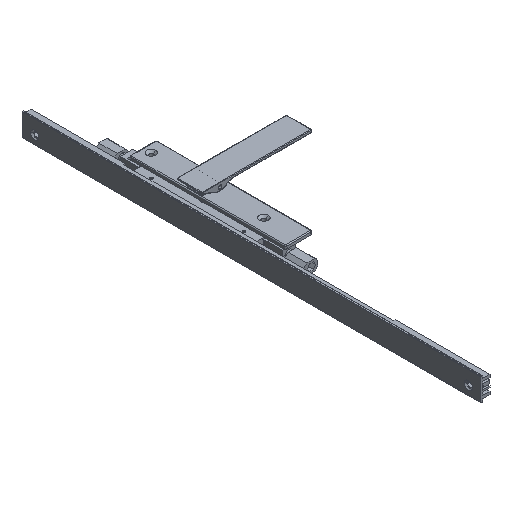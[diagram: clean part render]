
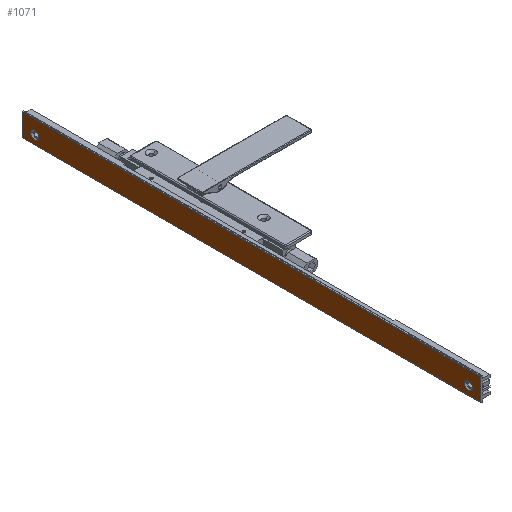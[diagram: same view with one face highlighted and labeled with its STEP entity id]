
A CAD part, isometric view. The second image highlights one B-rep face of the part: STEP entity #1071.
In plain terms, the highlighted planar face has unit normal (-1, 0, 0) as drawn and (0, 1, 0) by its records, which use the part's own axes.
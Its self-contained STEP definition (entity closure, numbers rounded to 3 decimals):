
#142 = AXIS2_PLACEMENT_3D ( 'NONE', #13903, #16269, #14981 ) ;
#216 = CARTESIAN_POINT ( 'NONE',  ( 22., 12.4, 0. ) ) ;
#268 = EDGE_LOOP ( 'NONE', ( #10225, #5388, #15163, #10496 ) ) ;
#888 = ORIENTED_EDGE ( 'NONE', *, *, #1524, .F. ) ;
#1071 = ADVANCED_FACE ( 'NONE', ( #19058, #15802, #8351 ), #9022, .F. ) ;
#1524 = EDGE_CURVE ( 'NONE', #7589, #12698, #17615, .T. ) ;
#1562 = EDGE_LOOP ( 'NONE', ( #1908, #888 ) ) ;
#1651 = LINE ( 'NONE', #216, #18694 ) ;
#1713 = CARTESIAN_POINT ( 'NONE',  ( 11.8, 12.4, 529. ) ) ;
#1901 = EDGE_CURVE ( 'NONE', #16387, #11164, #14850, .T. ) ;
#1908 = ORIENTED_EDGE ( 'NONE', *, *, #5347, .F. ) ;
#1943 = VERTEX_POINT ( 'NONE', #9044 ) ;
#2185 = DIRECTION ( 'NONE',  ( 0., 0., 1. ) ) ;
#2845 = DIRECTION ( 'NONE',  ( 0., 1., 0. ) ) ;
#3116 = CARTESIAN_POINT ( 'NONE',  ( 22., 12.4, 544. ) ) ;
#3300 = EDGE_CURVE ( 'NONE', #9023, #19003, #1651, .T. ) ;
#3347 = CARTESIAN_POINT ( 'NONE',  ( 11.8, 12.4, 19.89 ) ) ;
#3591 = AXIS2_PLACEMENT_3D ( 'NONE', #7497, #4231, #11774 ) ;
#3814 = VECTOR ( 'NONE', #12937, 1000. ) ;
#3854 = CARTESIAN_POINT ( 'NONE',  ( 11.8, 12.4, 533.889 ) ) ;
#4231 = DIRECTION ( 'NONE',  ( 0., 1., 0. ) ) ;
#5025 = EDGE_LOOP ( 'NONE', ( #7254, #15343 ) ) ;
#5347 = EDGE_CURVE ( 'NONE', #12698, #7589, #18019, .T. ) ;
#5388 = ORIENTED_EDGE ( 'NONE', *, *, #15030, .T. ) ;
#6089 = EDGE_CURVE ( 'NONE', #11164, #16387, #16817, .T. ) ;
#6180 = DIRECTION ( 'NONE',  ( 0., 0., 1. ) ) ;
#6267 = CARTESIAN_POINT ( 'NONE',  ( -4.4, 12.4, 544. ) ) ;
#6682 = EDGE_CURVE ( 'NONE', #9023, #1943, #13737, .T. ) ;
#6864 = DIRECTION ( 'NONE',  ( -1., 0., 0. ) ) ;
#7254 = ORIENTED_EDGE ( 'NONE', *, *, #6089, .F. ) ;
#7497 = CARTESIAN_POINT ( 'NONE',  ( 11.8, 12.4, 15. ) ) ;
#7589 = VERTEX_POINT ( 'NONE', #17540 ) ;
#7710 = DIRECTION ( 'NONE',  ( 0., 1., 0. ) ) ;
#8351 = FACE_OUTER_BOUND ( 'NONE', #268, .T. ) ;
#8395 = AXIS2_PLACEMENT_3D ( 'NONE', #10459, #2845, #11939 ) ;
#8516 = CARTESIAN_POINT ( 'NONE',  ( -4.4, 12.4, 0. ) ) ;
#9022 = PLANE ( 'NONE',  #142 ) ;
#9023 = VERTEX_POINT ( 'NONE', #18329 ) ;
#9044 = CARTESIAN_POINT ( 'NONE',  ( -4.4, 12.4, 0. ) ) ;
#10225 = ORIENTED_EDGE ( 'NONE', *, *, #6682, .T. ) ;
#10459 = CARTESIAN_POINT ( 'NONE',  ( 11.8, 12.4, 15. ) ) ;
#10496 = ORIENTED_EDGE ( 'NONE', *, *, #3300, .F. ) ;
#11164 = VERTEX_POINT ( 'NONE', #3347 ) ;
#11713 = AXIS2_PLACEMENT_3D ( 'NONE', #1713, #7710, #16219 ) ;
#11774 = DIRECTION ( 'NONE',  ( 0., 0., 1. ) ) ;
#11939 = DIRECTION ( 'NONE',  ( 0., 0., 1. ) ) ;
#12226 = VERTEX_POINT ( 'NONE', #6267 ) ;
#12244 = CARTESIAN_POINT ( 'NONE',  ( 20.8, 12.4, 544. ) ) ;
#12642 = CARTESIAN_POINT ( 'NONE',  ( 20.8, 12.4, 0. ) ) ;
#12698 = VERTEX_POINT ( 'NONE', #3854 ) ;
#12937 = DIRECTION ( 'NONE',  ( 0., 0., 1. ) ) ;
#13737 = LINE ( 'NONE', #12642, #17162 ) ;
#13903 = CARTESIAN_POINT ( 'NONE',  ( 20.8, 12.4, 544. ) ) ;
#14021 = EDGE_CURVE ( 'NONE', #19003, #12226, #15191, .T. ) ;
#14850 = CIRCLE ( 'NONE', #3591, 4.89 ) ;
#14981 = DIRECTION ( 'NONE',  ( 1., 0., 0. ) ) ;
#15030 = EDGE_CURVE ( 'NONE', #1943, #12226, #16161, .T. ) ;
#15163 = ORIENTED_EDGE ( 'NONE', *, *, #14021, .F. ) ;
#15191 = LINE ( 'NONE', #12244, #17102 ) ;
#15343 = ORIENTED_EDGE ( 'NONE', *, *, #1901, .F. ) ;
#15605 = DIRECTION ( 'NONE',  ( 0., 1., 0. ) ) ;
#15802 = FACE_BOUND ( 'NONE', #1562, .T. ) ;
#16161 = LINE ( 'NONE', #8516, #3814 ) ;
#16219 = DIRECTION ( 'NONE',  ( 0., 0., 1. ) ) ;
#16269 = DIRECTION ( 'NONE',  ( 0., -1., 0. ) ) ;
#16387 = VERTEX_POINT ( 'NONE', #18128 ) ;
#16817 = CIRCLE ( 'NONE', #8395, 4.89 ) ;
#17093 = AXIS2_PLACEMENT_3D ( 'NONE', #18393, #15605, #2185 ) ;
#17102 = VECTOR ( 'NONE', #18179, 1000. ) ;
#17162 = VECTOR ( 'NONE', #6864, 1000. ) ;
#17540 = CARTESIAN_POINT ( 'NONE',  ( 11.8, 12.4, 524.111 ) ) ;
#17615 = CIRCLE ( 'NONE', #11713, 4.889 ) ;
#18019 = CIRCLE ( 'NONE', #17093, 4.889 ) ;
#18128 = CARTESIAN_POINT ( 'NONE',  ( 11.8, 12.4, 10.111 ) ) ;
#18179 = DIRECTION ( 'NONE',  ( -1., 0., 0. ) ) ;
#18329 = CARTESIAN_POINT ( 'NONE',  ( 22., 12.4, 0. ) ) ;
#18393 = CARTESIAN_POINT ( 'NONE',  ( 11.8, 12.4, 529. ) ) ;
#18694 = VECTOR ( 'NONE', #6180, 1000. ) ;
#19003 = VERTEX_POINT ( 'NONE', #3116 ) ;
#19058 = FACE_BOUND ( 'NONE', #5025, .T. ) ;
